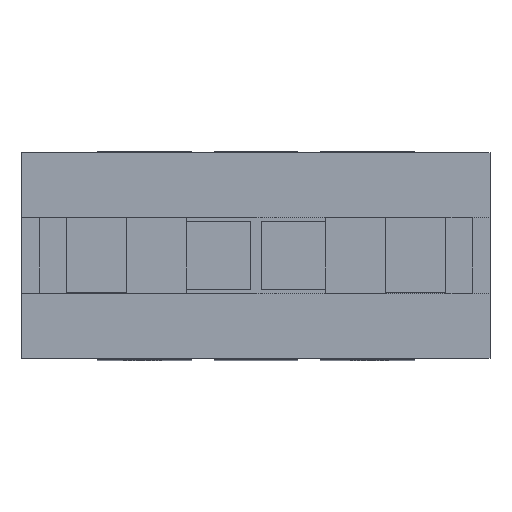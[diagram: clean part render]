
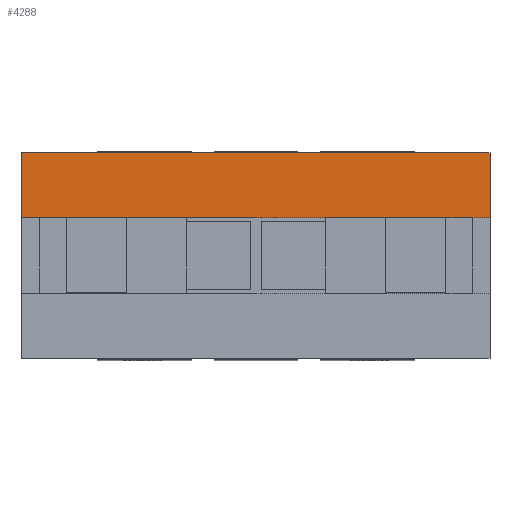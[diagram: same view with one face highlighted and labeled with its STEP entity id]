
A CAD part, top view. The second image highlights one B-rep face of the part: STEP entity #4288.
In plain terms, the highlighted planar face has unit normal (0, 0, 1).
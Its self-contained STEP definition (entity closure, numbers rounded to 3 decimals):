
#157 = ORIENTED_EDGE ( 'NONE', *, *, #1348, .T. ) ;
#748 = VERTEX_POINT ( 'NONE', #1050 ) ;
#790 = VECTOR ( 'NONE', #3347, 1000. ) ;
#792 = CARTESIAN_POINT ( 'NONE',  ( -31., 13.6, 73.5 ) ) ;
#808 = LINE ( 'NONE', #5495, #4614 ) ;
#982 = EDGE_LOOP ( 'NONE', ( #3295, #5095, #2262, #157 ) ) ;
#1021 = EDGE_CURVE ( 'NONE', #748, #5156, #5113, .T. ) ;
#1050 = CARTESIAN_POINT ( 'NONE',  ( 31., 5., 73.5 ) ) ;
#1348 = EDGE_CURVE ( 'NONE', #2781, #5156, #2225, .T. ) ;
#1762 = VERTEX_POINT ( 'NONE', #2256 ) ;
#2184 = CARTESIAN_POINT ( 'NONE',  ( -31., 5., 73.5 ) ) ;
#2225 = LINE ( 'NONE', #5796, #2389 ) ;
#2256 = CARTESIAN_POINT ( 'NONE',  ( 31., 13.6, 73.5 ) ) ;
#2262 = ORIENTED_EDGE ( 'NONE', *, *, #4438, .T. ) ;
#2353 = CARTESIAN_POINT ( 'NONE',  ( 31., 13.6, 73.5 ) ) ;
#2389 = VECTOR ( 'NONE', #5761, 1000. ) ;
#2781 = VERTEX_POINT ( 'NONE', #792 ) ;
#2975 = DIRECTION ( 'NONE',  ( -1., 0., 0. ) ) ;
#3295 = ORIENTED_EDGE ( 'NONE', *, *, #1021, .F. ) ;
#3347 = DIRECTION ( 'NONE',  ( 0., -1., 0. ) ) ;
#3676 = EDGE_CURVE ( 'NONE', #1762, #748, #5321, .T. ) ;
#3747 = DIRECTION ( 'NONE',  ( -1., 0., 0. ) ) ;
#4165 = DIRECTION ( 'NONE',  ( 0., 0., -1. ) ) ;
#4288 = ADVANCED_FACE ( 'NONE', ( #4616 ), #5247, .F. ) ;
#4438 = EDGE_CURVE ( 'NONE', #1762, #2781, #808, .T. ) ;
#4614 = VECTOR ( 'NONE', #2975, 1000. ) ;
#4616 = FACE_OUTER_BOUND ( 'NONE', #982, .T. ) ;
#4854 = CARTESIAN_POINT ( 'NONE',  ( 31., 13.6, 73.5 ) ) ;
#4898 = AXIS2_PLACEMENT_3D ( 'NONE', #4854, #4165, #3747 ) ;
#5095 = ORIENTED_EDGE ( 'NONE', *, *, #3676, .F. ) ;
#5113 = LINE ( 'NONE', #5864, #5377 ) ;
#5156 = VERTEX_POINT ( 'NONE', #2184 ) ;
#5247 = PLANE ( 'NONE',  #4898 ) ;
#5321 = LINE ( 'NONE', #2353, #790 ) ;
#5377 = VECTOR ( 'NONE', #5969, 1000. ) ;
#5495 = CARTESIAN_POINT ( 'NONE',  ( 31., 13.6, 73.5 ) ) ;
#5761 = DIRECTION ( 'NONE',  ( 0., -1., 0. ) ) ;
#5796 = CARTESIAN_POINT ( 'NONE',  ( -31., 0., 73.5 ) ) ;
#5864 = CARTESIAN_POINT ( 'NONE',  ( 31., 5., 73.5 ) ) ;
#5969 = DIRECTION ( 'NONE',  ( -1., 0., 0. ) ) ;
